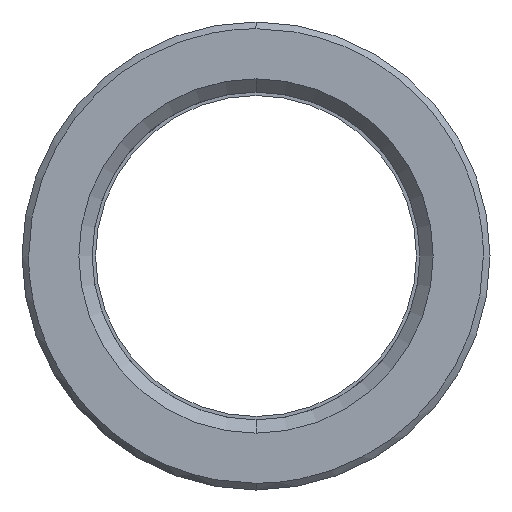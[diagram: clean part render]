
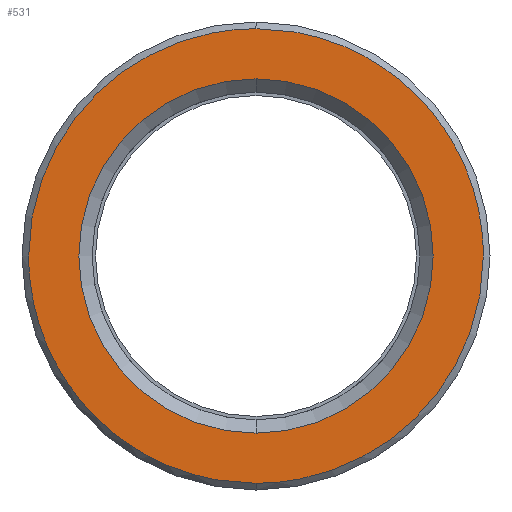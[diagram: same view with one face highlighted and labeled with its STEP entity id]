
A CAD part, left-side view. The second image highlights one B-rep face of the part: STEP entity #531.
In plain terms, the highlighted planar face has unit normal (-1, 0, 0).
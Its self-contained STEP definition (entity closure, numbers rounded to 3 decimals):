
#311=CARTESIAN_POINT('Axis2P3D Location',(0.,0.,0.)) ;
#315=CARTESIAN_POINT('Vertex',(0.,13.25,0.)) ;
#317=CARTESIAN_POINT('Vertex',(0.,0.,13.25)) ;
#320=CARTESIAN_POINT('Axis2P3D Location',(0.,0.,0.)) ;
#324=CARTESIAN_POINT('Vertex',(0.,0.,-13.25)) ;
#351=CARTESIAN_POINT('Axis2P3D Location',(0.,0.,0.)) ;
#355=CARTESIAN_POINT('Vertex',(0.,-13.25,0.)) ;
#358=CARTESIAN_POINT('Axis2P3D Location',(0.,0.,0.)) ;
#438=CARTESIAN_POINT('Axis2P3D Location',(0.,17.,0.)) ;
#444=CARTESIAN_POINT('Control Point',(0.,0.,-17.)) ;
#445=CARTESIAN_POINT('Control Point',(0.,1.123,-17.)) ;
#446=CARTESIAN_POINT('Control Point',(0.,2.246,-16.907)) ;
#447=CARTESIAN_POINT('Control Point',(0.,3.359,-16.722)) ;
#448=CARTESIAN_POINT('Control Point',(0.,6.023,-16.047)) ;
#449=CARTESIAN_POINT('Control Point',(0.,8.508,-14.851)) ;
#450=CARTESIAN_POINT('Control Point',(0.,9.884,-13.974)) ;
#451=CARTESIAN_POINT('Control Point',(0.,12.399,-11.909)) ;
#452=CARTESIAN_POINT('Control Point',(0.,14.361,-9.312)) ;
#453=CARTESIAN_POINT('Control Point',(0.,15.182,-7.903)) ;
#454=CARTESIAN_POINT('Control Point',(0.,16.222,-5.498)) ;
#455=CARTESIAN_POINT('Control Point',(0.,16.786,-2.951)) ;
#456=CARTESIAN_POINT('Control Point',(0.,16.929,-1.972)) ;
#457=CARTESIAN_POINT('Control Point',(0.,17.,-0.986)) ;
#458=CARTESIAN_POINT('Control Point',(0.,17.,0.)) ;
#459=CARTESIAN_POINT('Vertex',(0.,0.,-17.)) ;
#461=CARTESIAN_POINT('Vertex',(0.,17.,0.)) ;
#465=CARTESIAN_POINT('Control Point',(0.,-17.,0.)) ;
#466=CARTESIAN_POINT('Control Point',(0.,-17.,-1.616)) ;
#467=CARTESIAN_POINT('Control Point',(0.,-16.808,-3.232)) ;
#468=CARTESIAN_POINT('Control Point',(0.,-16.424,-4.817)) ;
#469=CARTESIAN_POINT('Control Point',(0.,-15.287,-7.867)) ;
#470=CARTESIAN_POINT('Control Point',(0.,-13.466,-10.565)) ;
#471=CARTESIAN_POINT('Control Point',(0.,-12.399,-11.799)) ;
#472=CARTESIAN_POINT('Control Point',(0.,-9.993,-13.99)) ;
#473=CARTESIAN_POINT('Control Point',(0.,-7.14,-15.556)) ;
#474=CARTESIAN_POINT('Control Point',(0.,-5.626,-16.165)) ;
#475=CARTESIAN_POINT('Control Point',(0.,-3.576,-16.717)) ;
#476=CARTESIAN_POINT('Control Point',(0.,-1.478,-16.946)) ;
#477=CARTESIAN_POINT('Control Point',(0.,-0.986,-16.982)) ;
#478=CARTESIAN_POINT('Control Point',(0.,-0.493,-17.)) ;
#479=CARTESIAN_POINT('Control Point',(0.,0.,-17.)) ;
#480=CARTESIAN_POINT('Vertex',(0.,-17.,0.)) ;
#484=CARTESIAN_POINT('Control Point',(0.,0.,17.)) ;
#485=CARTESIAN_POINT('Control Point',(0.,-1.123,17.)) ;
#486=CARTESIAN_POINT('Control Point',(0.,-2.246,16.907)) ;
#487=CARTESIAN_POINT('Control Point',(0.,-3.359,16.722)) ;
#488=CARTESIAN_POINT('Control Point',(0.,-6.023,16.047)) ;
#489=CARTESIAN_POINT('Control Point',(0.,-8.508,14.851)) ;
#490=CARTESIAN_POINT('Control Point',(0.,-9.884,13.974)) ;
#491=CARTESIAN_POINT('Control Point',(0.,-12.399,11.909)) ;
#492=CARTESIAN_POINT('Control Point',(0.,-14.361,9.312)) ;
#493=CARTESIAN_POINT('Control Point',(0.,-15.182,7.903)) ;
#494=CARTESIAN_POINT('Control Point',(0.,-16.222,5.498)) ;
#495=CARTESIAN_POINT('Control Point',(0.,-16.786,2.951)) ;
#496=CARTESIAN_POINT('Control Point',(0.,-16.929,1.972)) ;
#497=CARTESIAN_POINT('Control Point',(0.,-17.,0.986)) ;
#498=CARTESIAN_POINT('Control Point',(0.,-17.,0.)) ;
#499=CARTESIAN_POINT('Vertex',(0.,0.,17.)) ;
#503=CARTESIAN_POINT('Control Point',(0.,17.,0.)) ;
#504=CARTESIAN_POINT('Control Point',(0.,17.,1.616)) ;
#505=CARTESIAN_POINT('Control Point',(0.,16.808,3.232)) ;
#506=CARTESIAN_POINT('Control Point',(0.,16.424,4.817)) ;
#507=CARTESIAN_POINT('Control Point',(0.,15.287,7.867)) ;
#508=CARTESIAN_POINT('Control Point',(0.,13.466,10.565)) ;
#509=CARTESIAN_POINT('Control Point',(0.,12.399,11.799)) ;
#510=CARTESIAN_POINT('Control Point',(0.,9.993,13.99)) ;
#511=CARTESIAN_POINT('Control Point',(0.,7.14,15.556)) ;
#512=CARTESIAN_POINT('Control Point',(0.,5.626,16.165)) ;
#513=CARTESIAN_POINT('Control Point',(0.,3.576,16.717)) ;
#514=CARTESIAN_POINT('Control Point',(0.,1.478,16.946)) ;
#515=CARTESIAN_POINT('Control Point',(0.,0.986,16.982)) ;
#516=CARTESIAN_POINT('Control Point',(0.,0.493,17.)) ;
#517=CARTESIAN_POINT('Control Point',(0.,0.,17.)) ;
#312=DIRECTION('Axis2P3D Direction',(-1.,0.,0.)) ;
#321=DIRECTION('Axis2P3D Direction',(-1.,0.,0.)) ;
#352=DIRECTION('Axis2P3D Direction',(-1.,0.,0.)) ;
#359=DIRECTION('Axis2P3D Direction',(-1.,0.,0.)) ;
#439=DIRECTION('Axis2P3D Direction',(-1.,0.,0.)) ;
#440=DIRECTION('Axis2P3D XDirection',(0.,0.,1.)) ;
#313=AXIS2_PLACEMENT_3D('Circle Axis2P3D',#311,#312,$) ;
#322=AXIS2_PLACEMENT_3D('Circle Axis2P3D',#320,#321,$) ;
#353=AXIS2_PLACEMENT_3D('Circle Axis2P3D',#351,#352,$) ;
#360=AXIS2_PLACEMENT_3D('Circle Axis2P3D',#358,#359,$) ;
#441=AXIS2_PLACEMENT_3D('Plane Axis2P3D',#438,#439,#440) ;
#520=ORIENTED_EDGE('',*,*,#463,.F.) ;
#521=ORIENTED_EDGE('',*,*,#482,.F.) ;
#522=ORIENTED_EDGE('',*,*,#501,.F.) ;
#523=ORIENTED_EDGE('',*,*,#518,.F.) ;
#526=ORIENTED_EDGE('',*,*,#319,.T.) ;
#527=ORIENTED_EDGE('',*,*,#362,.T.) ;
#528=ORIENTED_EDGE('',*,*,#357,.T.) ;
#529=ORIENTED_EDGE('',*,*,#326,.T.) ;
#530=FACE_BOUND('',#525,.T.) ;
#531=ADVANCED_FACE('553-24X116',(#524,#530),#442,.T.) ;
#443=B_SPLINE_CURVE_WITH_KNOTS('',5,(#444,#445,#446,#447,#448,#449,#450,#451,#452,#453,#454,#455,#456,#457,#458),.UNSPECIFIED.,.F.,.U.,(6,3,3,3,6),(37.764,45.705,57.131,68.557,75.528),.UNSPECIFIED.) ;
#464=B_SPLINE_CURVE_WITH_KNOTS('',5,(#465,#466,#467,#468,#469,#470,#471,#472,#473,#474,#475,#476,#477,#478,#479),.UNSPECIFIED.,.F.,.U.,(6,3,3,3,6),(0.,11.426,22.852,34.279,37.764),.UNSPECIFIED.) ;
#483=B_SPLINE_CURVE_WITH_KNOTS('',5,(#484,#485,#486,#487,#488,#489,#490,#491,#492,#493,#494,#495,#496,#497,#498),.UNSPECIFIED.,.F.,.U.,(6,3,3,3,6),(37.764,45.705,57.131,68.557,75.528),.UNSPECIFIED.) ;
#502=B_SPLINE_CURVE_WITH_KNOTS('',5,(#503,#504,#505,#506,#507,#508,#509,#510,#511,#512,#513,#514,#515,#516,#517),.UNSPECIFIED.,.F.,.U.,(6,3,3,3,6),(0.,11.426,22.852,34.279,37.764),.UNSPECIFIED.) ;
#314=CIRCLE('generated circle',#313,13.25) ;
#323=CIRCLE('generated circle',#322,13.25) ;
#354=CIRCLE('generated circle',#353,13.25) ;
#361=CIRCLE('generated circle',#360,13.25) ;
#319=EDGE_CURVE('',#316,#318,#314,.F.) ;
#326=EDGE_CURVE('',#325,#316,#323,.F.) ;
#357=EDGE_CURVE('',#356,#325,#354,.F.) ;
#362=EDGE_CURVE('',#318,#356,#361,.F.) ;
#463=EDGE_CURVE('',#460,#462,#443,.T.) ;
#482=EDGE_CURVE('',#481,#460,#464,.T.) ;
#501=EDGE_CURVE('',#500,#481,#483,.T.) ;
#518=EDGE_CURVE('',#462,#500,#502,.T.) ;
#519=EDGE_LOOP('',(#520,#521,#522,#523)) ;
#525=EDGE_LOOP('',(#526,#527,#528,#529)) ;
#524=FACE_OUTER_BOUND('',#519,.T.) ;
#442=PLANE('Plane',#441) ;
#316=VERTEX_POINT('',#315) ;
#318=VERTEX_POINT('',#317) ;
#325=VERTEX_POINT('',#324) ;
#356=VERTEX_POINT('',#355) ;
#460=VERTEX_POINT('',#459) ;
#462=VERTEX_POINT('',#461) ;
#481=VERTEX_POINT('',#480) ;
#500=VERTEX_POINT('',#499) ;
